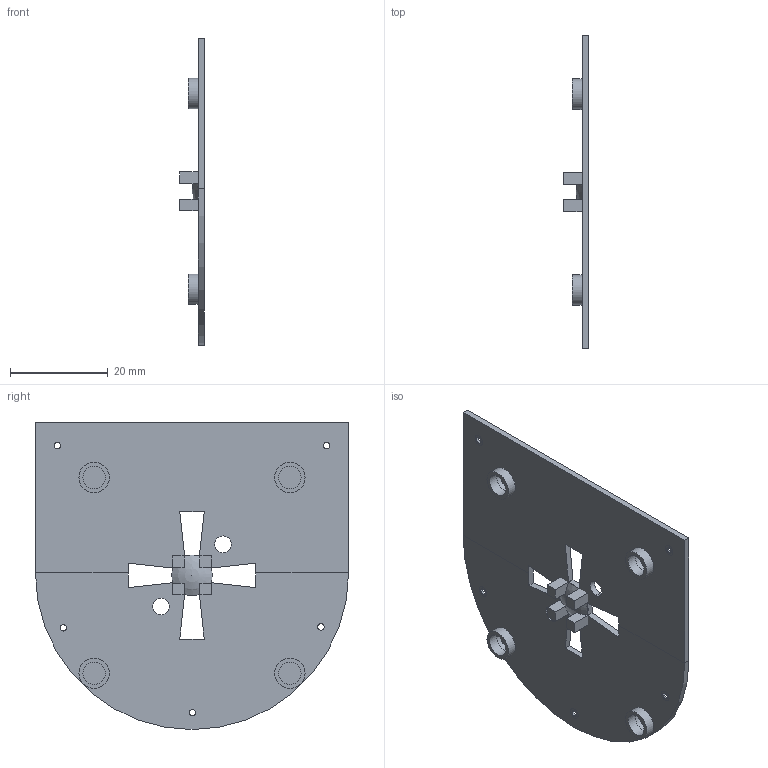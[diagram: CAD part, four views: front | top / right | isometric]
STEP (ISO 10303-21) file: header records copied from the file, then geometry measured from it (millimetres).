
FILE_DESCRIPTION(('FreeCAD Model'),'2;1');
FILE_NAME('/Users/alberto/Desktop/Dtto v2.0.1 STEP/010-1.step', '2017-05-29T11:47:38',('Author'),(''), 'Open CASCADE STEP processor 6.8','FreeCAD','Unknown');
FILE_SCHEMA(('AUTOMOTIVE_DESIGN_CC2 { 1 2 10303 214 -1 1 5 4 }'));
Length unit declared in the file: millimetre
Products named in the file (7): ASSEMBLY; Clone_of_Clone_of_OriginalEsferaF; Cut247; Clone_of_Clone_of_Clone_of_Cut003; Clone_of_Clone_of_Clone_of_Cut004; Clone_of_Clone_of_Original_Soporte_iman; Clone_of_Clone_of_Clone_of_Cut005
Assembly tree (6 placements, depth 2):
  ASSEMBLY
    Clone_of_Clone_of_OriginalEsferaF
    Cut247
    Clone_of_Clone_of_Clone_of_Cut003
    Clone_of_Clone_of_Clone_of_Cut004
    Clone_of_Clone_of_Original_Soporte_iman
    Clone_of_Clone_of_Clone_of_Cut005
Bounding box: 5 x 64 x 62.75 mm (x, y, z)
Volume: 4417.6 mm3; surface area: 8042.1 mm2
Topology: 6 solids, 6 shells, 93 faces, 229 edges, 152 vertices
Faces by surface type: plane 65, cylinder 22, cone 5, sphere 1
Full cylindrical faces by diameter (mm): 1.3 x5, 4.6 x8, 6.2 x4
Entity records: 6054 total; most frequent: CARTESIAN_POINT 1252, DIRECTION 770, ORIENTED_EDGE 456, PCURVE 456, DEFINITIONAL_REPRESENTATION 456, LINE 381, VECTOR 381, EDGE_CURVE 228
